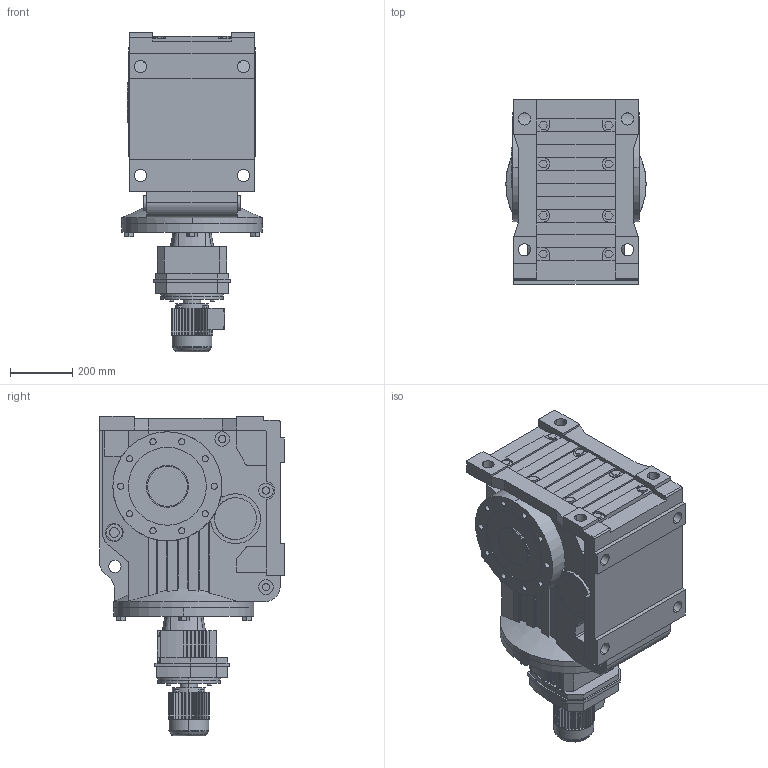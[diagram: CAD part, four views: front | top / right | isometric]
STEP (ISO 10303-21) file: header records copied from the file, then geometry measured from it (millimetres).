
FILE_DESCRIPTION(('Open CASCADE Model'),'2;1');
FILE_NAME('Open CASCADE Shape Model','2021-07-24T16:40:17',('Author'),( 'Open CASCADE'),'Open CASCADE STEP processor 6.3','Open CASCADE 6.3' ,'Unknown');
FILE_SCHEMA(('AUTOMOTIVE_DESIGN_CC2 { 1 2 10303 214 -1 1 5 4 }'));
Length unit declared in the file: millimetre
Products named in the file (5): 1_KA127R77DR63-A; KA127‵157_127.step; 萇儂_200-DR63-179-234-132-105.step; R_127_77.step; す瑩諾陑粣K_127.step
Assembly tree (4 placements, depth 2):
  1_KA127R77DR63-A
    KA127‵157_127.step
    萇儂_200-DR63-179-234-132-105.step
    R_127_77.step
    す瑩諾陑粣K_127.step
Bounding box: 450 x 592 x 1026 mm (x, y, z)
Volume: 119793088 mm3; surface area: 3361338.5 mm2
Topology: 4 solids, 4 shells, 1146 faces, 3024 edges, 1981 vertices
Faces by surface type: plane 784, cylinder 346, cone 12, torus 4
Entity records: 81068 total; most frequent: CARTESIAN_POINT 23450, DIRECTION 9913, ORIENTED_EDGE 6048, PCURVE 6048, DEFINITIONAL_REPRESENTATION 6048, LINE 5527, VECTOR 5527, EDGE_CURVE 3024
